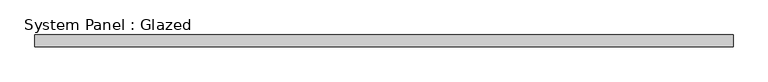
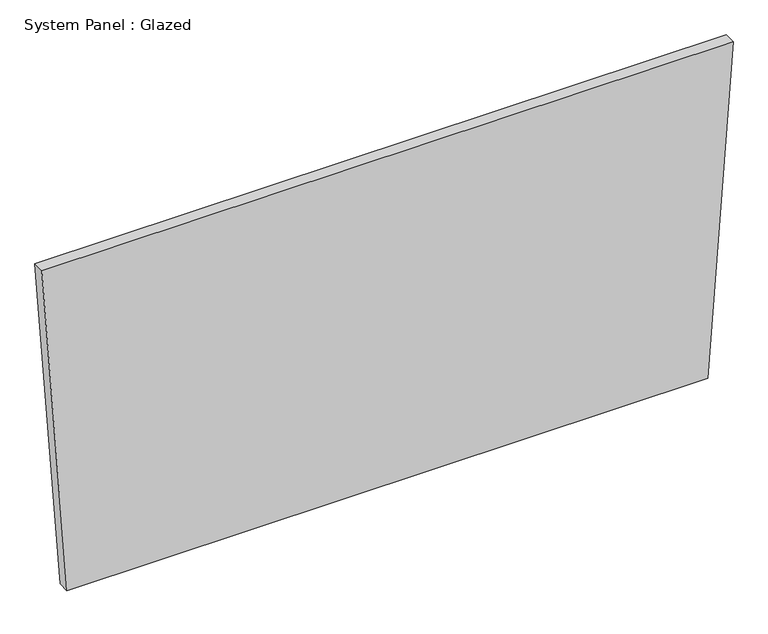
"""IFC4 building model written with IfcOpenShell, lengths in millimetres: plate geometry, System Panel : Glazed."""

from ifc_helpers import new_model, si_unit, frame, origin, place, context, project, spatial, polyline, outline, extrude, source, transform, mapped, element, save


def system_panel_glazed_b30dfeb5(model_context):
    return source(origin(), model_context, "Body", "SweptSolid", [
        extrude(outline(polyline([(0.0, -688.357874), (0.000597, 688.3578707), (745.5878397, 742.5096421), (745.5871979, -742.5096421), (0.0, -688.357874)])), frame((0.0, 19.05, 0.0), z_axis=(0.0, 1.0, 0.0), x_axis=(0.0, 0.0, 1.0)), (0.0, 0.0, 1.0), 25.4),
    ])


if __name__ == "__main__":
    model = new_model("IFC4")
    model_context = context("Model", 3, world=origin())
    ifc_project = project(units=[si_unit("LENGTHUNIT", "METRE", prefix="MILLI")], contexts=[model_context])
    site = spatial("IfcSite", under=ifc_project)
    building = spatial("IfcBuilding", under=site)
    placement = place(None, origin())
    system_panel_glazed_shape = system_panel_glazed_b30dfeb5(model_context)
    element("IfcPlate", 1, ObjectType="System Panel : Glazed", at=placement, inside=building, context=model_context, shape_type="MappedRepresentation", body=[
        mapped(system_panel_glazed_shape, transform((0.0, 0.0, 0.0), x_axis=(1.0, 0.0, 0.0), y_axis=(0.0, 1.0, 0.0), z_axis=(0.0, 0.0, 1.0))),
    ])
    save(model, "model.ifc")
